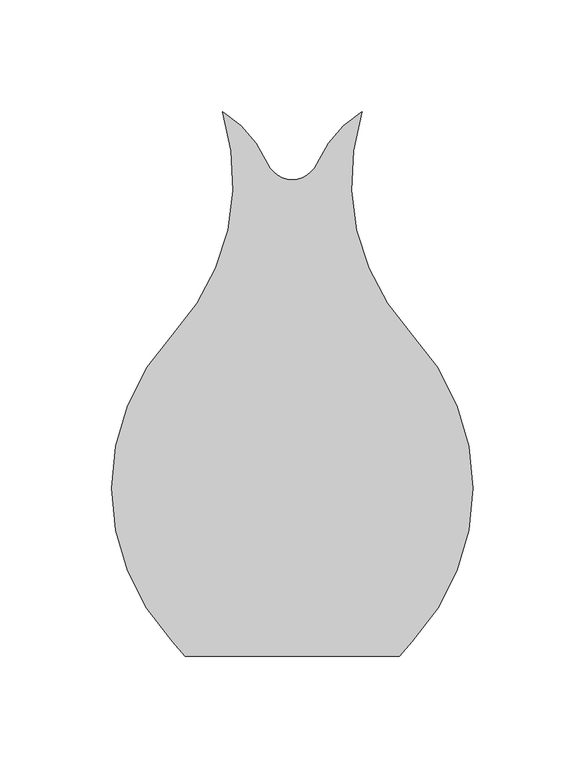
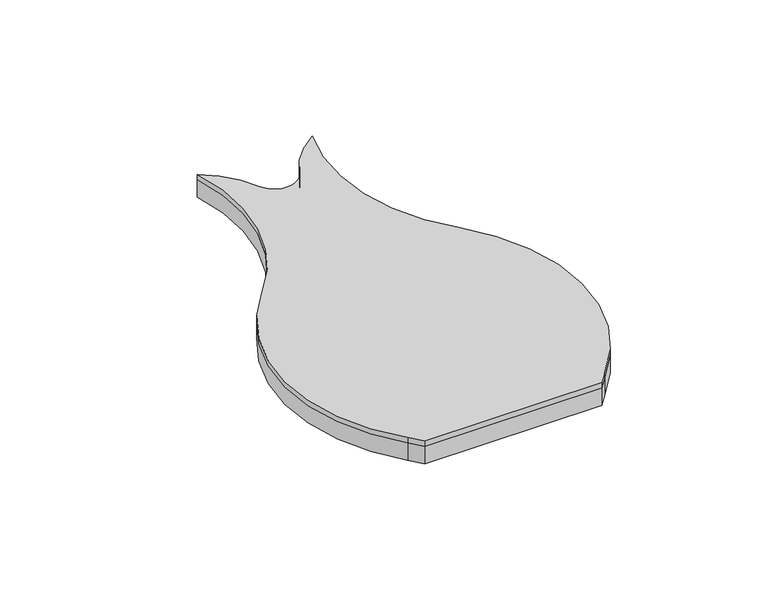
"""IFC4 building model written with IfcOpenShell, lengths in millimetres: proxy geometry, FilzFelt_Fish_Block : Fish Block."""

from ifc_helpers import new_model, si_unit, frame, origin, place, context, project, spatial, polyline, circle_curve, source, transform, mapped, element, save
from ifc_brep_helpers import plane_surface, cylinder_surface, revolved_surface, advanced_brep


def specialty_equipment_c99af68f(model_context):
    return source(origin(), model_context, "Body", "AdvancedBrep", [
        advanced_brep(
        [(53.5486457, -68.6120133, 10.0210937), (47.9842821, -75.0666515, 10.0210937), (-47.9842821, -75.0666515, 10.0210937), (-53.5486457, -68.6120133, 10.0210937), (-80.7142226, 0.0, 10.0210937), (-53.5486457, 68.6120133, 10.0210937), (-31.2619065, 168.1141956, 10.0210937), (-11.0103348, 145.0347036, 10.0210937), (11.0103348, 145.0347036, 10.0210937), (31.2619065, 168.1141956, 10.0210937), (53.5486457, 68.6120133, 10.0210937), (-53.5486457, 68.6120133, 12.9976563), (-80.7142226, 0.0, 12.9976563), (-53.5486457, -68.6120133, 12.9976563), (-47.9842821, -75.0666515, 12.9976563), (47.9842821, -75.0666515, 12.9976563), (53.5486457, -68.6120133, 12.9976563), (80.7142226, 0.0, 12.9976563), (53.5486457, 68.6120133, 12.9976563), (31.2619065, 168.1141956, 12.9976563), (11.0103348, 145.0347036, 12.9976563), (-11.0103348, 145.0347036, 12.9976563), (-31.2619065, 168.1141956, 12.9976563)],
        [
            (0, 1, circle_curve(frame((126.6124317, -137.2240266, 10.0210937), z_axis=(0.0, 0.0, 1.0), x_axis=(-1.0, 0.0, 0.0)), 100.2293629)),
            (1, 2),
            (2, 3, circle_curve(frame((-126.6124317, -137.2240266, 10.0210937), z_axis=(0.0, 0.0, 1.0), x_axis=(-1.0, 0.0, 0.0)), 100.2293629)),
            (3, 4, circle_curve(frame((19.5151403, 0.0, 10.0210937), z_axis=(0.0, 0.0, -1.0), x_axis=(-1.0, 0.0, 0.0)), 100.2293629)),
            (4, 5, circle_curve(frame((19.5151403, 0.0, 10.0210937), z_axis=(0.0, 0.0, -1.0), x_axis=(-1.0, 0.0, 0.0)), 100.2293629)),
            (5, 6, circle_curve(frame((-126.6124317, 137.2240266, 10.0210937), z_axis=(0.0, 0.0, 1.0), x_axis=(-1.0, 0.0, 0.0)), 100.2293629)),
            (6, 7, circle_curve(frame((-57.9263497, 124.2921115, 10.0210937), z_axis=(0.0, 0.0, -1.0), x_axis=(-1.0, 0.0, 0.0)), 51.2968574)),
            (7, 8, circle_curve(frame((0.0, 149.9026124, 10.0210937), z_axis=(0.0, 0.0, 1.0), x_axis=(-1.0, 0.0, 0.0)), 12.0384388)),
            (8, 9, circle_curve(frame((57.9263497, 124.2921115, 10.0210937), z_axis=(0.0, 0.0, -1.0), x_axis=(-1.0, 0.0, 0.0)), 51.2968574)),
            (9, 10, circle_curve(frame((126.6124317, 137.2240266, 10.0210937), z_axis=(0.0, 0.0, 1.0), x_axis=(-1.0, 0.0, 0.0)), 100.2293629)),
            (10, 0, circle_curve(frame((-19.5151403, 0.0, 10.0210937), z_axis=(0.0, 0.0, -1.0), x_axis=(-1.0, 0.0, 0.0)), 100.2293629)),
            (11, 12, circle_curve(frame((19.5151403, 0.0, 12.9976563), z_axis=(0.0, 0.0, 1.0), x_axis=(-1.0, 0.0, 0.0)), 100.2293629)),
            (12, 13, circle_curve(frame((19.5151403, 0.0, 12.9976563), z_axis=(0.0, 0.0, 1.0), x_axis=(-1.0, 0.0, 0.0)), 100.2293629)),
            (13, 14, circle_curve(frame((-126.6124317, -137.2240266, 12.9976563), z_axis=(0.0, 0.0, -1.0), x_axis=(-1.0, 0.0, 0.0)), 100.2293629)),
            (14, 15),
            (15, 16, circle_curve(frame((126.6124317, -137.2240266, 12.9976563), z_axis=(0.0, 0.0, -1.0), x_axis=(-1.0, 0.0, 0.0)), 100.2293629)),
            (16, 17, circle_curve(frame((-19.5151403, 0.0, 12.9976563), z_axis=(0.0, 0.0, 1.0), x_axis=(-1.0, 0.0, 0.0)), 100.2293629)),
            (17, 18, circle_curve(frame((-19.5151403, 0.0, 12.9976563), z_axis=(0.0, 0.0, 1.0), x_axis=(-1.0, 0.0, 0.0)), 100.2293629)),
            (18, 19, circle_curve(frame((126.6124317, 137.2240266, 12.9976563), z_axis=(0.0, 0.0, -1.0), x_axis=(-1.0, 0.0, 0.0)), 100.2293629)),
            (19, 20, circle_curve(frame((57.9263497, 124.2921115, 12.9976563), z_axis=(0.0, 0.0, 1.0), x_axis=(-1.0, 0.0, 0.0)), 51.2968574)),
            (20, 21, circle_curve(frame((0.0, 149.9026124, 12.9976563), z_axis=(0.0, 0.0, -1.0), x_axis=(-1.0, 0.0, 0.0)), 12.0384388)),
            (21, 22, circle_curve(frame((-57.9263497, 124.2921115, 12.9976563), z_axis=(0.0, 0.0, 1.0), x_axis=(-1.0, 0.0, 0.0)), 51.2968574)),
            (22, 11, circle_curve(frame((-126.6124317, 137.2240266, 12.9976563), z_axis=(0.0, 0.0, -1.0), x_axis=(-1.0, 0.0, 0.0)), 100.2293629)),
            (10, 18),
            (16, 0),
            (9, 19),
            (8, 20),
            (7, 21),
            (6, 22),
            (5, 11),
            (3, 13),
            (2, 14),
            (15, 1),
        ],
        [
            plane_surface(frame((0.0, 0.0, 10.0210937), z_axis=(0.0, 0.0, -1.0), x_axis=(0.0, 1.0, 0.0))),
            plane_surface(frame((0.0, 0.0, 12.9976563), z_axis=(0.0, 0.0, 1.0), x_axis=(0.0, 1.0, 0.0))),
            cylinder_surface(frame((-19.5151403, 0.0, 10.0210937), z_axis=(0.0, 0.0, -1.0), x_axis=(-1.0, 0.0, 0.0)), 100.2293629),
            revolved_surface(polyline([(26.383068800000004, 137.2240266, 12.9976563), (26.383068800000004, 137.2240266, 10.0210937)]), (126.6124317, 137.2240266, 10.0210937), (0.0, 0.0, 1.0)),
            cylinder_surface(frame((57.9263497, 124.2921115, 10.0210937), z_axis=(0.0, 0.0, -1.0), x_axis=(-1.0, 0.0, 0.0)), 51.2968574),
            revolved_surface(polyline([(-12.0384388, 149.9026124, 12.9976563), (-12.0384388, 149.9026124, 10.0210937)]), (0.0, 149.9026124, 10.0210937), (0.0, 0.0, 1.0)),
            cylinder_surface(frame((-57.9263497, 124.2921115, 10.0210937), z_axis=(0.0, 0.0, -1.0), x_axis=(-1.0, 0.0, 0.0)), 51.2968574),
            revolved_surface(polyline([(-226.84179460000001, 137.2240266, 12.9976563), (-226.84179460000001, 137.2240266, 10.0210937)]), (-126.6124317, 137.2240266, 10.0210937), (0.0, 0.0, 1.0)),
            cylinder_surface(frame((19.5151403, 0.0, 10.0210937), z_axis=(0.0, 0.0, -1.0), x_axis=(-1.0, 0.0, 0.0)), 100.2293629),
            revolved_surface(polyline([(-226.84179460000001, -137.2240266, 12.9976563), (-226.84179460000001, -137.2240266, 10.0210937)]), (-126.6124317, -137.2240266, 10.0210937), (0.0, 0.0, 1.0)),
            revolved_surface(polyline([(26.383068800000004, -137.2240266, 12.9976563), (26.383068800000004, -137.2240266, 10.0210937)]), (126.6124317, -137.2240266, 10.0210937), (0.0, 0.0, 1.0)),
            plane_surface(frame((-112.4642226, -75.0666515, 12.9976562), z_axis=(0.0, -1.0, 0.0), x_axis=(-1.0, 0.0, 0.0))),
        ],
        [
            (0, [[1, 2, 3, 4, 5, 6, 7, 8, 9, 10, 11]]),
            (1, [[12, 13, 14, 15, 16, 17, 18, 19, 20, 21, 22, 23]]),
            (2, [[24, -18, -17, 25, -11]]),
            (3, [[26, -19, -24, -10]]),
            (4, [[27, -20, -26, -9]]),
            (5, [[28, -21, -27, -8]]),
            (6, [[29, -22, -28, -7]]),
            (7, [[30, -23, -29, -6]]),
            (8, [[-5, -4, 31, -13, -12, -30]]),
            (9, [[-3, 32, -14, -31]]),
            (10, [[-16, 33, -1, -25]]),
            (11, [[-33, -15, -32, -2]]),
        ],
    ),
        advanced_brep(
        [(31.2619065, 168.1141956, 0.0), (53.5486457, 68.6120133, 0.0), (80.7142226, 0.0, 0.0), (53.5486457, -68.6120133, 0.0), (47.9842821, -75.0666515, 0.0), (-47.9842821, -75.0666515, 0.0), (-53.5486457, -68.6120133, 0.0), (-80.7142226, 0.0, 0.0), (-53.5486457, 68.6120133, 0.0), (-31.2619065, 168.1141956, 0.0), (-11.0103348, 145.0347036, 0.0), (11.0103348, 145.0347036, 0.0), (31.2619065, 168.1141956, 10.0210937), (11.0103348, 145.0347036, 10.0210937), (-11.0103348, 145.0347036, 10.0210937), (-31.2619065, 168.1141956, 10.0210937), (-53.5486457, 68.6120133, 10.0210937), (-80.7142226, 0.0, 10.0210937), (-53.5486457, -68.6120133, 10.0210937), (-47.9842821, -75.0666515, 10.0210937), (47.9842821, -75.0666515, 10.0210937), (53.5486457, -68.6120133, 10.0210937), (53.5486457, 68.6120133, 10.0210937)],
        [
            (0, 1, circle_curve(frame((126.6124317, 137.2240266, 0.0), z_axis=(0.0, 0.0, 1.0), x_axis=(-1.0, 0.0, 0.0)), 100.2293629)),
            (1, 2, circle_curve(frame((-19.5151403, 0.0, 0.0), z_axis=(0.0, 0.0, -1.0), x_axis=(-1.0, 0.0, 0.0)), 100.2293629)),
            (2, 3, circle_curve(frame((-19.5151403, 0.0, 0.0), z_axis=(0.0, 0.0, -1.0), x_axis=(-1.0, 0.0, 0.0)), 100.2293629)),
            (3, 4, circle_curve(frame((126.6124317, -137.2240266, 0.0), z_axis=(0.0, 0.0, 1.0), x_axis=(-1.0, 0.0, 0.0)), 100.2293629)),
            (4, 5),
            (5, 6, circle_curve(frame((-126.6124317, -137.2240266, 0.0), z_axis=(0.0, 0.0, 1.0), x_axis=(-1.0, 0.0, 0.0)), 100.2293629)),
            (6, 7, circle_curve(frame((19.5151403, 0.0, 0.0), z_axis=(0.0, 0.0, -1.0), x_axis=(-1.0, 0.0, 0.0)), 100.2293629)),
            (7, 8, circle_curve(frame((19.5151403, 0.0, 0.0), z_axis=(0.0, 0.0, -1.0), x_axis=(-1.0, 0.0, 0.0)), 100.2293629)),
            (8, 9, circle_curve(frame((-126.6124317, 137.2240266, 0.0), z_axis=(0.0, 0.0, 1.0), x_axis=(-1.0, 0.0, 0.0)), 100.2293629)),
            (9, 10, circle_curve(frame((-57.9263497, 124.2921115, 0.0), z_axis=(0.0, 0.0, -1.0), x_axis=(-1.0, 0.0, 0.0)), 51.2968574)),
            (10, 11, circle_curve(frame((0.0, 149.9026124, 0.0), z_axis=(0.0, 0.0, 1.0), x_axis=(-1.0, 0.0, 0.0)), 12.0384388)),
            (11, 0, circle_curve(frame((57.9263497, 124.2921115, 0.0), z_axis=(0.0, 0.0, -1.0), x_axis=(-1.0, 0.0, 0.0)), 51.2968574)),
            (12, 13, circle_curve(frame((57.9263497, 124.2921115, 10.0210937), z_axis=(0.0, 0.0, 1.0), x_axis=(-1.0, 0.0, 0.0)), 51.2968574)),
            (13, 14, circle_curve(frame((0.0, 149.9026124, 10.0210937), z_axis=(0.0, 0.0, -1.0), x_axis=(-1.0, 0.0, 0.0)), 12.0384388)),
            (14, 15, circle_curve(frame((-57.9263497, 124.2921115, 10.0210937), z_axis=(0.0, 0.0, 1.0), x_axis=(-1.0, 0.0, 0.0)), 51.2968574)),
            (15, 16, circle_curve(frame((-126.6124317, 137.2240266, 10.0210937), z_axis=(0.0, 0.0, -1.0), x_axis=(-1.0, 0.0, 0.0)), 100.2293629)),
            (16, 17, circle_curve(frame((19.5151403, 0.0, 10.0210937), z_axis=(0.0, 0.0, 1.0), x_axis=(-1.0, 0.0, 0.0)), 100.2293629)),
            (17, 18, circle_curve(frame((19.5151403, 0.0, 10.0210937), z_axis=(0.0, 0.0, 1.0), x_axis=(-1.0, 0.0, 0.0)), 100.2293629)),
            (18, 19, circle_curve(frame((-126.6124317, -137.2240266, 10.0210937), z_axis=(0.0, 0.0, -1.0), x_axis=(-1.0, 0.0, 0.0)), 100.2293629)),
            (19, 20),
            (20, 21, circle_curve(frame((126.6124317, -137.2240266, 10.0210937), z_axis=(0.0, 0.0, -1.0), x_axis=(-1.0, 0.0, 0.0)), 100.2293629)),
            (21, 22, circle_curve(frame((-19.5151403, 0.0, 10.0210937), z_axis=(0.0, 0.0, 1.0), x_axis=(-1.0, 0.0, 0.0)), 100.2293629)),
            (22, 12, circle_curve(frame((126.6124317, 137.2240266, 10.0210937), z_axis=(0.0, 0.0, -1.0), x_axis=(-1.0, 0.0, 0.0)), 100.2293629)),
            (11, 13),
            (12, 0),
            (10, 14),
            (9, 15),
            (8, 16),
            (6, 18),
            (5, 19),
            (20, 4),
            (3, 21),
            (1, 22),
        ],
        [
            plane_surface(frame((0.0, 0.0, 0.0), z_axis=(0.0, 0.0, -1.0), x_axis=(0.0, 1.0, 0.0))),
            plane_surface(frame((0.0, 0.0, 10.0210937), z_axis=(0.0, 0.0, 1.0), x_axis=(0.0, 1.0, 0.0))),
            cylinder_surface(frame((57.9263497, 124.2921115, 0.0), z_axis=(0.0, 0.0, -1.0), x_axis=(-1.0, 0.0, 0.0)), 51.2968574),
            revolved_surface(polyline([(-12.0384388, 149.9026124, 10.0210937), (-12.0384388, 149.9026124, 0.0)]), (0.0, 149.9026124, 0.0), (0.0, 0.0, 1.0)),
            cylinder_surface(frame((-57.9263497, 124.2921115, 0.0), z_axis=(0.0, 0.0, -1.0), x_axis=(-1.0, 0.0, 0.0)), 51.2968574),
            revolved_surface(polyline([(-226.84179460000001, 137.2240266, 10.0210937), (-226.84179460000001, 137.2240266, 0.0)]), (-126.6124317, 137.2240266, 0.0), (0.0, 0.0, 1.0)),
            cylinder_surface(frame((19.5151403, 0.0, 0.0), z_axis=(0.0, 0.0, -1.0), x_axis=(-1.0, 0.0, 0.0)), 100.2293629),
            revolved_surface(polyline([(-226.84179460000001, -137.2240266, 10.0210937), (-226.84179460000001, -137.2240266, 0.0)]), (-126.6124317, -137.2240266, 0.0), (0.0, 0.0, 1.0)),
            revolved_surface(polyline([(26.383068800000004, -137.2240266, 10.0210937), (26.383068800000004, -137.2240266, 0.0)]), (126.6124317, -137.2240266, 0.0), (0.0, 0.0, 1.0)),
            cylinder_surface(frame((-19.5151403, 0.0, 0.0), z_axis=(0.0, 0.0, -1.0), x_axis=(-1.0, 0.0, 0.0)), 100.2293629),
            revolved_surface(polyline([(26.383068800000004, 137.2240266, 10.0210937), (26.383068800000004, 137.2240266, 0.0)]), (126.6124317, 137.2240266, 0.0), (0.0, 0.0, 1.0)),
            plane_surface(frame((-112.4642226, -75.0666515, 12.9976562), z_axis=(0.0, -1.0, 0.0), x_axis=(-1.0, 0.0, 0.0))),
        ],
        [
            (0, [[1, 2, 3, 4, 5, 6, 7, 8, 9, 10, 11, 12]]),
            (1, [[13, 14, 15, 16, 17, 18, 19, 20, 21, 22, 23]]),
            (2, [[24, -13, 25, -12]]),
            (3, [[26, -14, -24, -11]]),
            (4, [[27, -15, -26, -10]]),
            (5, [[28, -16, -27, -9]]),
            (6, [[-8, -7, 29, -18, -17, -28]]),
            (7, [[-6, 30, -19, -29]]),
            (8, [[-21, 31, -4, 32]]),
            (9, [[-32, -3, -2, 33, -22]]),
            (10, [[-25, -23, -33, -1]]),
            (11, [[-31, -20, -30, -5]]),
        ],
    ),
    ])


if __name__ == "__main__":
    model = new_model("IFC4")
    model_context = context("Model", 3, world=origin())
    ifc_project = project(units=[si_unit("LENGTHUNIT", "METRE", prefix="MILLI")], contexts=[model_context])
    site = spatial("IfcSite", under=ifc_project)
    building = spatial("IfcBuilding", under=site)
    placement = place(None, origin())
    specialty_equipment_shape = specialty_equipment_c99af68f(model_context)
    element("IfcBuildingElementProxy", 1, Name="FilzFelt_Fish_Block : Fish Block", ObjectType="FilzFelt_Fish_Block : Fish Block", at=placement, inside=building, context=model_context, shape_type="MappedRepresentation", body=[
        mapped(specialty_equipment_shape, transform((0.0, 0.0, 0.0), x_axis=(1.0, 0.0, 0.0), y_axis=(0.0, 1.0, 0.0), z_axis=(0.0, 0.0, 1.0))),
    ])
    save(model, "model.ifc")
